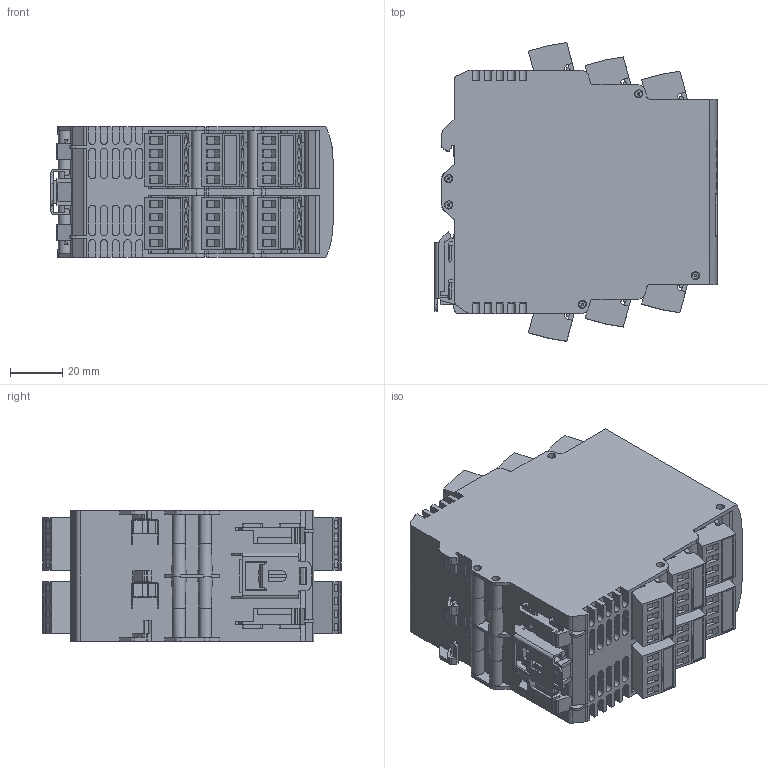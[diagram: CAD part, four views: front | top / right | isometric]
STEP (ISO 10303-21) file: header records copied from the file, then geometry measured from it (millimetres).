
FILE_DESCRIPTION( ( 'STEP AP203' ), '1' );
FILE_NAME( 'p:/temp/worker_4/temp/exporttempdir_1208_618_TpcYF/format_0/VSE101.stp', '2022-02-11T16:38:34', ( 'License CC BY-ND 4.0' ), ( 'CADENAS' ), ' ', 'PARTsolutions', ' ' );
FILE_SCHEMA( ( 'CONFIG_CONTROL_DESIGN' ) );
Length unit declared in the file: millimetre
Products named in the file (1): _VSE101
Bounding box: 107.92 x 114.2 x 50 mm (x, y, z)
Volume: 443542.5 mm3; surface area: 73579.7 mm2
Topology: 1 solids, 1 shells, 2455 faces, 6745 edges, 4484 vertices
Faces by surface type: plane 2082, cylinder 338, cone 30, sphere 5
Full cylindrical faces by diameter (mm): 2 x5, 4 x48
Entity records: 76819 total; most frequent: CARTESIAN_POINT 13799, ORIENTED_EDGE 13292, DIRECTION 12313, EDGE_CURVE 6646, LINE 5845, VECTOR 5845, VERTEX_POINT 4474, AXIS2_PLACEMENT_3D 3234
